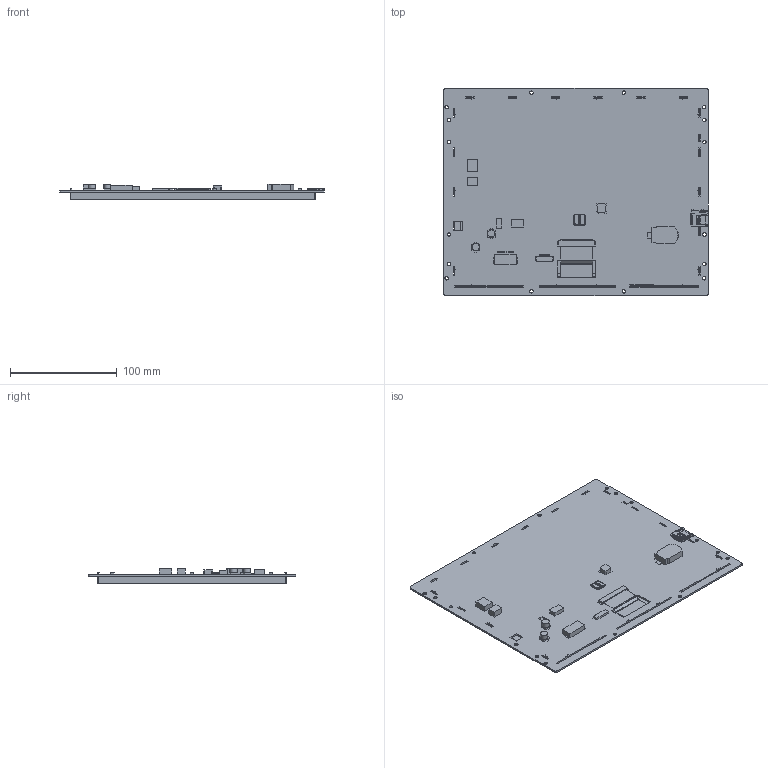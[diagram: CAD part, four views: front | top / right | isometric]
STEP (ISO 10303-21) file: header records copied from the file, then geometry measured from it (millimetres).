
FILE_DESCRIPTION(/* description */ (''),/* implementation_level */ '2;1');
FILE_NAME(/* name */ '',/* time_stamp */ '2021-08-14T08:58:58+08:00',/* author */ (''),/* organization */ (''),/* preprocessor_version */ 'ST-DEVELOPER v11',/* originating_system */ 'SIEMENS PLM Software NX 7.5',/* authorisation */ '');
FILE_SCHEMA (('AP203_CONFIGURATION_CONTROLLED_3D_DESIGN_OF_MECHANICAL_PARTS_AND_ASSEMBLIES_MIM_LF'));
Products named in the file (1): SDWb104T84N
Bounding box: 247.8 x 193.7 x 14.81 mm (x, y, z)
Volume: 89171.9 mm3; surface area: 199614.4 mm2
Topology: 20 solids, 20 shells, 2875 faces, 8255 edges, 5433 vertices
Faces by surface type: plane 2392, cylinder 475, bspline 7, cone 1
Full cylindrical faces by diameter (mm): 3.2 x16, 6.776 x2
Entity records: 95634 total; most frequent: CARTESIAN_POINT 17173, ORIENTED_EDGE 16352, DIRECTION 14843, EDGE_CURVE 8176, LINE 7205, VECTOR 7205, VERTEX_POINT 5348, AXIS2_PLACEMENT_3D 3819
